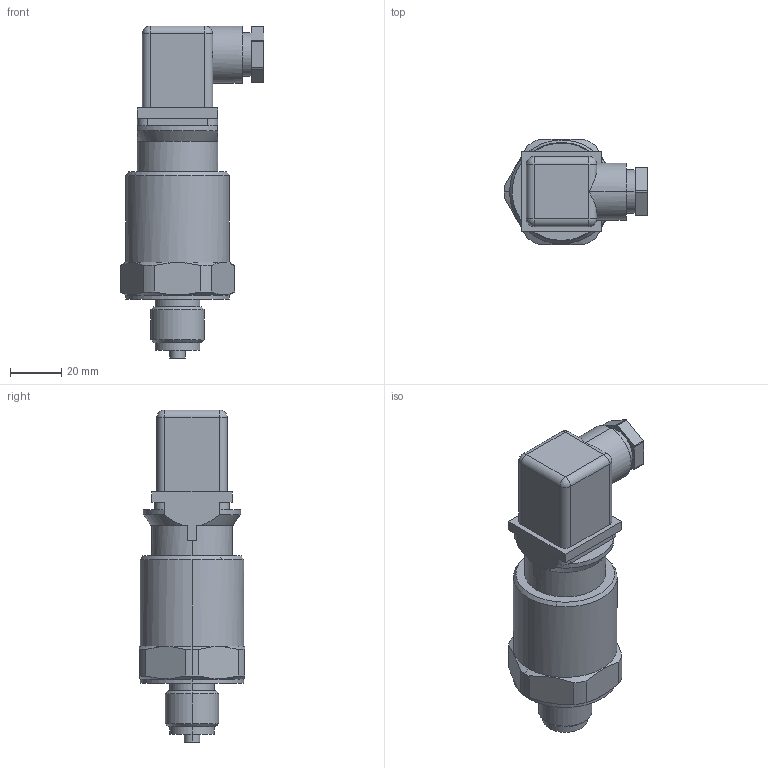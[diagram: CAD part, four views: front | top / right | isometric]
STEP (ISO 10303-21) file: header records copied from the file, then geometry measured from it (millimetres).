
FILE_DESCRIPTION(('starvars output'),'1');
FILE_NAME('cv20241203084029000012871.stp','08:40:30 2024/12/03',('Thomas Industrial Network Germany GmbH'),(' '),'Spatial InterOp 3D',' ',' ');
FILE_SCHEMA(('AP242_MANAGED_MODEL_BASED_3D_ENGINEERING_MIM_LF {1 0 10303 442 2 1 4}'));
Length unit declared in the file: millimetre
Products named in the file (1): 1
Bounding box: 56.1 x 41 x 129.5 mm (x, y, z)
Volume: 123463.9 mm3; surface area: 18846 mm2
Topology: 1 solids, 1 shells, 121 faces, 297 edges, 183 vertices
Faces by surface type: plane 52, cylinder 51, cone 14, sphere 4
Entity records: 4568 total; most frequent: CARTESIAN_POINT 686, DIRECTION 650, ORIENTED_EDGE 586, EDGE_CURVE 293, AXIS2_PLACEMENT_3D 255, VERTEX_POINT 183, LINE 140, VECTOR 140
